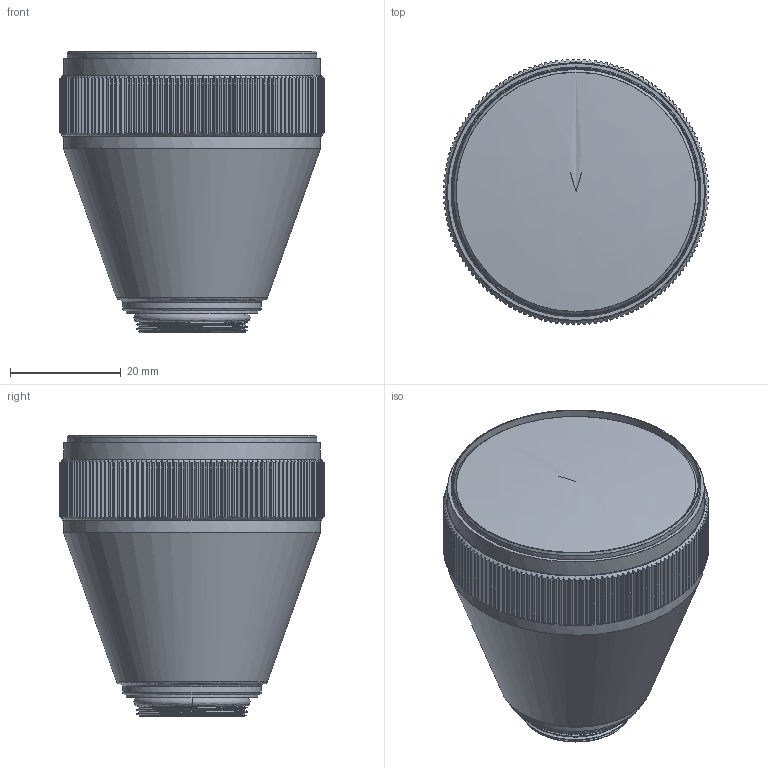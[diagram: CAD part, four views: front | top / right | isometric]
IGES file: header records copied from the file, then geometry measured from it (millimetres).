
Global section: file name: C:\Users\mmoretti\Downloads\Nuova cartella\DSD-1056 S73030511 Lens 50 _GOT-0511 Lens X-0174.igs; native system: NX V12.0; preprocessor: SIEMENS PLM Software NX 12.0; date: 20210304.104626; units: millimetre
Bounding box: 48 x 47.99 x 51 mm (x, y, z)
Surface area: 17912.4 mm2 (no closed solid volume)
Topology: 0 solids, 0 shells, 650 faces, 4090 edges, 4065 vertices
Faces by surface type: bspline 650
